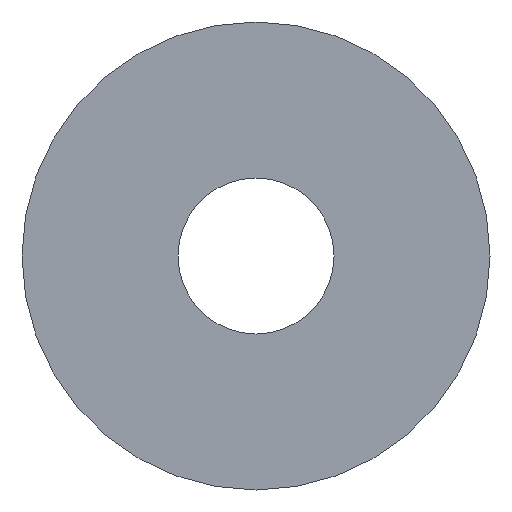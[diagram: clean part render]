
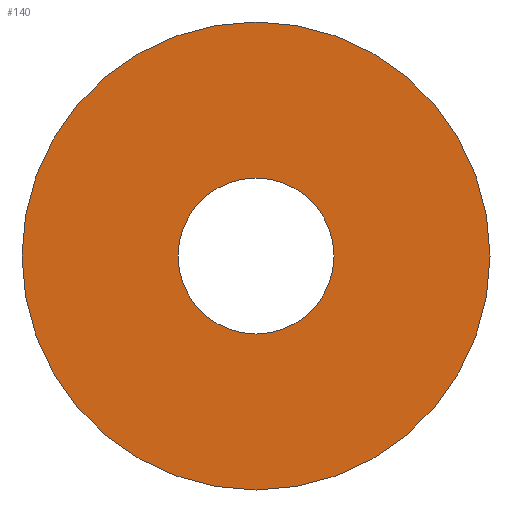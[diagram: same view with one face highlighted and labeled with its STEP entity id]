
A CAD part, front view. The second image highlights one B-rep face of the part: STEP entity #140.
In plain terms, the highlighted planar face has unit normal (0, -1, 0).
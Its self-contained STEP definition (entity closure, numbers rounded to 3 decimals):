
#31 = CYLINDRICAL_SURFACE('',#32,9.);
#32 = AXIS2_PLACEMENT_3D('',#33,#34,#35);
#33 = CARTESIAN_POINT('',(80.,34.,-95.263));
#34 = DIRECTION('',(0.,1.,0.));
#35 = DIRECTION('',(0.,-0.,1.));
#56 = VERTEX_POINT('',#57);
#57 = CARTESIAN_POINT('',(80.,34.,-86.263));
#78 = EDGE_CURVE('',#56,#56,#79,.T.);
#79 = SURFACE_CURVE('',#80,(#85,#92),.PCURVE_S1.);
#80 = CIRCLE('',#81,9.);
#81 = AXIS2_PLACEMENT_3D('',#82,#83,#84);
#82 = CARTESIAN_POINT('',(80.,34.,-95.263));
#83 = DIRECTION('',(0.,1.,0.));
#84 = DIRECTION('',(0.,-0.,1.));
#85 = PCURVE('',#31,#86);
#86 = DEFINITIONAL_REPRESENTATION('',(#87),#91);
#87 = LINE('',#88,#89);
#88 = CARTESIAN_POINT('',(0.,0.));
#89 = VECTOR('',#90,1.);
#90 = DIRECTION('',(1.,0.));
#91 = ( GEOMETRIC_REPRESENTATION_CONTEXT(2) 
PARAMETRIC_REPRESENTATION_CONTEXT() REPRESENTATION_CONTEXT('2D SPACE',''
  ) );
#92 = PCURVE('',#93,#98);
#93 = PLANE('',#94);
#94 = AXIS2_PLACEMENT_3D('',#95,#96,#97);
#95 = CARTESIAN_POINT('',(80.,34.,-95.263));
#96 = DIRECTION('',(0.,1.,0.));
#97 = DIRECTION('',(0.,-0.,1.));
#98 = DEFINITIONAL_REPRESENTATION('',(#99),#103);
#99 = CIRCLE('',#100,9.);
#100 = AXIS2_PLACEMENT_2D('',#101,#102);
#101 = CARTESIAN_POINT('',(0.,0.));
#102 = DIRECTION('',(1.,0.));
#103 = ( GEOMETRIC_REPRESENTATION_CONTEXT(2) 
PARAMETRIC_REPRESENTATION_CONTEXT() REPRESENTATION_CONTEXT('2D SPACE',''
  ) );
#129 = CYLINDRICAL_SURFACE('',#130,3.);
#130 = AXIS2_PLACEMENT_3D('',#131,#132,#133);
#131 = CARTESIAN_POINT('',(80.,34.,-95.263));
#132 = DIRECTION('',(0.,1.,0.));
#133 = DIRECTION('',(0.,-0.,1.));
#140 = ADVANCED_FACE('',(#141,#144),#93,.F.);
#141 = FACE_BOUND('',#142,.F.);
#142 = EDGE_LOOP('',(#143));
#143 = ORIENTED_EDGE('',*,*,#78,.T.);
#144 = FACE_BOUND('',#145,.F.);
#145 = EDGE_LOOP('',(#146));
#146 = ORIENTED_EDGE('',*,*,#147,.F.);
#147 = EDGE_CURVE('',#148,#148,#150,.T.);
#148 = VERTEX_POINT('',#149);
#149 = CARTESIAN_POINT('',(80.,34.,-92.263));
#150 = SURFACE_CURVE('',#151,(#156,#163),.PCURVE_S1.);
#151 = CIRCLE('',#152,3.);
#152 = AXIS2_PLACEMENT_3D('',#153,#154,#155);
#153 = CARTESIAN_POINT('',(80.,34.,-95.263));
#154 = DIRECTION('',(0.,1.,0.));
#155 = DIRECTION('',(0.,-0.,1.));
#156 = PCURVE('',#93,#157);
#157 = DEFINITIONAL_REPRESENTATION('',(#158),#162);
#158 = CIRCLE('',#159,3.);
#159 = AXIS2_PLACEMENT_2D('',#160,#161);
#160 = CARTESIAN_POINT('',(0.,0.));
#161 = DIRECTION('',(1.,0.));
#162 = ( GEOMETRIC_REPRESENTATION_CONTEXT(2) 
PARAMETRIC_REPRESENTATION_CONTEXT() REPRESENTATION_CONTEXT('2D SPACE',''
  ) );
#163 = PCURVE('',#129,#164);
#164 = DEFINITIONAL_REPRESENTATION('',(#165),#169);
#165 = LINE('',#166,#167);
#166 = CARTESIAN_POINT('',(0.,0.));
#167 = VECTOR('',#168,1.);
#168 = DIRECTION('',(1.,0.));
#169 = ( GEOMETRIC_REPRESENTATION_CONTEXT(2) 
PARAMETRIC_REPRESENTATION_CONTEXT() REPRESENTATION_CONTEXT('2D SPACE',''
  ) );
